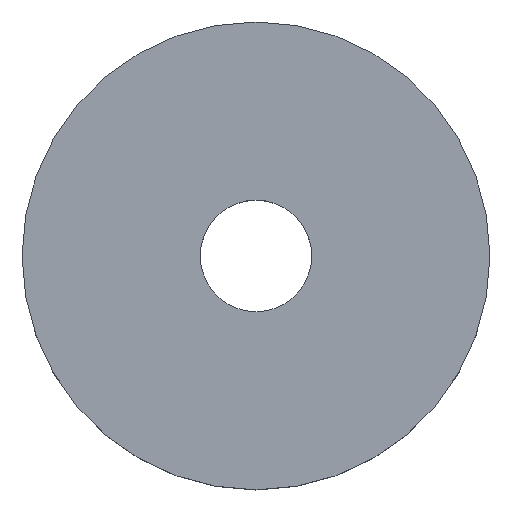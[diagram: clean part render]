
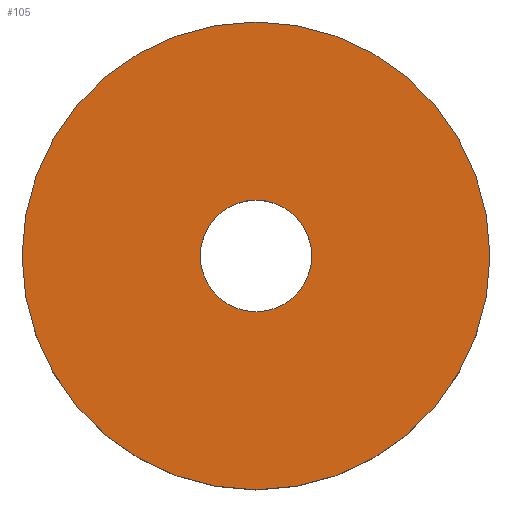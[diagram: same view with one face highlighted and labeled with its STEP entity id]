
A CAD part, top view. The second image highlights one B-rep face of the part: STEP entity #105.
In plain terms, the highlighted planar face has unit normal (0, 0, 1).
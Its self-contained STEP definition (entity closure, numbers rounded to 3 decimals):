
#21 = EDGE_CURVE('',#22,#22,#24,.T.);
#22 = VERTEX_POINT('',#23);
#23 = CARTESIAN_POINT('',(161.,0.,87.));
#24 = SURFACE_CURVE('',#25,(#30,#42),.PCURVE_S1.);
#25 = CIRCLE('',#26,26.);
#26 = AXIS2_PLACEMENT_3D('',#27,#28,#29);
#27 = CARTESIAN_POINT('',(135.,0.,87.));
#28 = DIRECTION('',(0.,0.,1.));
#29 = DIRECTION('',(1.,0.,-0.));
#30 = PCURVE('',#31,#36);
#31 = CYLINDRICAL_SURFACE('',#32,26.);
#32 = AXIS2_PLACEMENT_3D('',#33,#34,#35);
#33 = CARTESIAN_POINT('',(135.,0.,77.));
#34 = DIRECTION('',(0.,0.,1.));
#35 = DIRECTION('',(1.,0.,-0.));
#36 = DEFINITIONAL_REPRESENTATION('',(#37),#41);
#37 = LINE('',#38,#39);
#38 = CARTESIAN_POINT('',(0.,10.));
#39 = VECTOR('',#40,1.);
#40 = DIRECTION('',(1.,0.));
#41 = ( GEOMETRIC_REPRESENTATION_CONTEXT(2) 
PARAMETRIC_REPRESENTATION_CONTEXT() REPRESENTATION_CONTEXT('2D SPACE',''
  ) );
#42 = PCURVE('',#43,#48);
#43 = PLANE('',#44);
#44 = AXIS2_PLACEMENT_3D('',#45,#46,#47);
#45 = CARTESIAN_POINT('',(135.,0.,87.));
#46 = DIRECTION('',(0.,0.,1.));
#47 = DIRECTION('',(1.,0.,-0.));
#48 = DEFINITIONAL_REPRESENTATION('',(#49),#53);
#49 = CIRCLE('',#50,26.);
#50 = AXIS2_PLACEMENT_2D('',#51,#52);
#51 = CARTESIAN_POINT('',(0.,0.));
#52 = DIRECTION('',(1.,0.));
#53 = ( GEOMETRIC_REPRESENTATION_CONTEXT(2) 
PARAMETRIC_REPRESENTATION_CONTEXT() REPRESENTATION_CONTEXT('2D SPACE',''
  ) );
#105 = ADVANCED_FACE('',(#106,#109),#43,.T.);
#106 = FACE_BOUND('',#107,.T.);
#107 = EDGE_LOOP('',(#108));
#108 = ORIENTED_EDGE('',*,*,#21,.T.);
#109 = FACE_BOUND('',#110,.T.);
#110 = EDGE_LOOP('',(#111));
#111 = ORIENTED_EDGE('',*,*,#112,.F.);
#112 = EDGE_CURVE('',#113,#113,#115,.T.);
#113 = VERTEX_POINT('',#114);
#114 = CARTESIAN_POINT('',(141.2,0.,87.));
#115 = SURFACE_CURVE('',#116,(#121,#128),.PCURVE_S1.);
#116 = CIRCLE('',#117,6.2);
#117 = AXIS2_PLACEMENT_3D('',#118,#119,#120);
#118 = CARTESIAN_POINT('',(135.,0.,87.));
#119 = DIRECTION('',(0.,0.,1.));
#120 = DIRECTION('',(1.,0.,-0.));
#121 = PCURVE('',#43,#122);
#122 = DEFINITIONAL_REPRESENTATION('',(#123),#127);
#123 = CIRCLE('',#124,6.2);
#124 = AXIS2_PLACEMENT_2D('',#125,#126);
#125 = CARTESIAN_POINT('',(0.,0.));
#126 = DIRECTION('',(1.,0.));
#127 = ( GEOMETRIC_REPRESENTATION_CONTEXT(2) 
PARAMETRIC_REPRESENTATION_CONTEXT() REPRESENTATION_CONTEXT('2D SPACE',''
  ) );
#128 = PCURVE('',#129,#134);
#129 = CYLINDRICAL_SURFACE('',#130,6.2);
#130 = AXIS2_PLACEMENT_3D('',#131,#132,#133);
#131 = CARTESIAN_POINT('',(135.,0.,77.));
#132 = DIRECTION('',(0.,0.,1.));
#133 = DIRECTION('',(1.,0.,-0.));
#134 = DEFINITIONAL_REPRESENTATION('',(#135),#139);
#135 = LINE('',#136,#137);
#136 = CARTESIAN_POINT('',(0.,10.));
#137 = VECTOR('',#138,1.);
#138 = DIRECTION('',(1.,0.));
#139 = ( GEOMETRIC_REPRESENTATION_CONTEXT(2) 
PARAMETRIC_REPRESENTATION_CONTEXT() REPRESENTATION_CONTEXT('2D SPACE',''
  ) );
